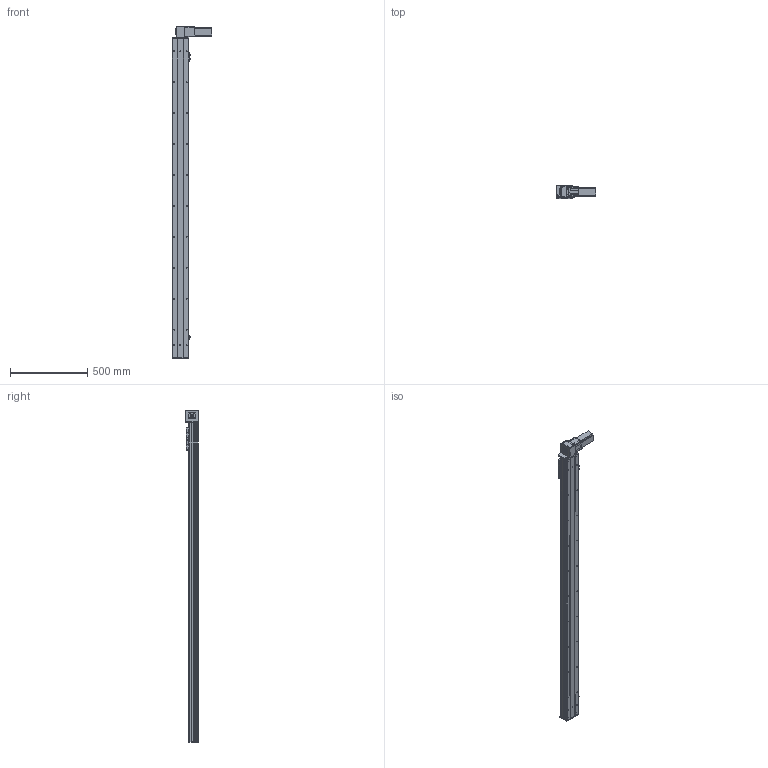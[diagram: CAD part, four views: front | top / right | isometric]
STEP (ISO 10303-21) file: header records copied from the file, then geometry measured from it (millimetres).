
FILE_DESCRIPTION (( 'STEP AP203' ), '1' );
FILE_NAME ('Y10CB-D90-S1800-BD-P400W.STEP', '2020-02-17T02:50:26', ( '微软用户' ), ( '微软中国' ), 'SwSTEP 2.0', 'SolidWorks 2017', '' );
FILE_SCHEMA (( 'CONFIG_CONTROL_DESIGN' ));
Length unit declared in the file: millimetre
Products named in the file (16): Y135C-陔俋离換覜結え-; san松下电机400不带刹车----; Y100-135俋离換覜ん--; 0B-源倛裔啣; Y10B--々湍喘謫眊--666; 0B-埴倛裔啣; 0B-薊粣ん眊; 10CB-詩湍-; Y10CB-D90-S1800-BD-P400W; Y10CB- 掛极耜裔啣-毀---; Y10C---詩湍揤啣; 0CB-雄赽釱---; 10CB9-掛极; 0Cb-俋欶---; 10CB-耜裔; Y10B-々湍喘謫眊楊擘啣--
Assembly tree (19 placements, depth 2):
  Y10CB-D90-S1800-BD-P400W
    0CB-雄赽釱---
    0Cb-俋欶---
    Y10B-々湍喘謫眊楊擘啣--
    san松下电机400不带刹车----
    0B-源倛裔啣
    0B-埴倛裔啣
    10CB-詩湍-
    Y10CB- 掛极耜裔啣-毀---  x2
    Y10C---詩湍揤啣  x2
    10CB9-掛极
    10CB-耜裔
    Y135C-陔俋离換覜結え-
    Y100-135俋离換覜ん--  x3
    Y10B--々湍喘謫眊--666
    0B-薊粣ん眊
Bounding box: 258 x 80.5 x 2146 mm (x, y, z)
Volume: 4532192.2 mm3; surface area: 2072148.9 mm2
Topology: 19 solids, 19 shells, 948 faces, 2542 edges, 1652 vertices
Faces by surface type: cylinder 480, plane 444, cone 24
Entity records: 29569 total; most frequent: CARTESIAN_POINT 5496, DIRECTION 4729, ORIENTED_EDGE 4554, EDGE_CURVE 2277, AXIS2_PLACEMENT_3D 1695, VERTEX_POINT 1478, LINE 1339, VECTOR 1339
